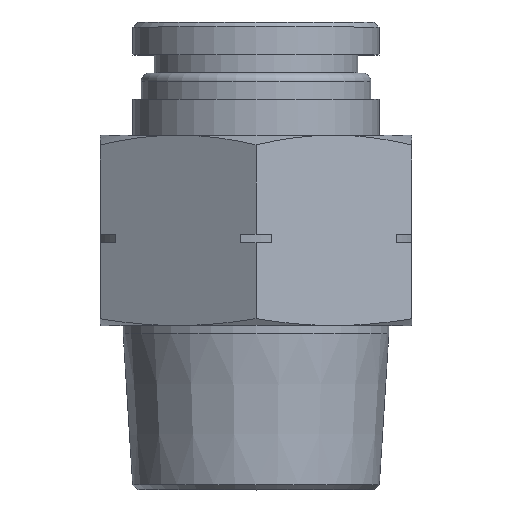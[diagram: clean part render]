
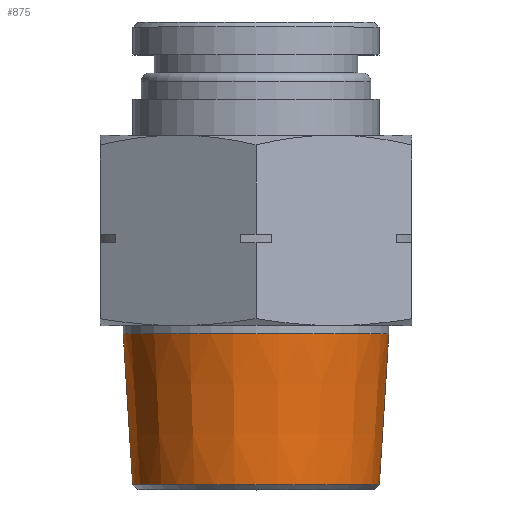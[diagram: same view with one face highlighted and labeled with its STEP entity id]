
A CAD part, top view. The second image highlights one B-rep face of the part: STEP entity #875.
In plain terms, the highlighted conical face has half-angle 3.58 degrees and reference radius 7.797 mm.
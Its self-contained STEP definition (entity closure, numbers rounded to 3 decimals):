
#16=CONICAL_SURFACE('',#978,7.797,0.062);
#104=FACE_OUTER_BOUND('',#162,.T.);
#162=EDGE_LOOP('',(#682,#683,#684,#685,#686));
#216=CIRCLE('',#974,7.519);
#217=CIRCLE('',#975,7.519);
#219=CIRCLE('',#979,8.094);
#286=LINE('',#1473,#344);
#344=VECTOR('',#1184,7.797);
#411=VERTEX_POINT('',#1462);
#412=VERTEX_POINT('',#1463);
#414=VERTEX_POINT('',#1471);
#512=EDGE_CURVE('',#411,#412,#216,.T.);
#513=EDGE_CURVE('',#412,#411,#217,.T.);
#516=EDGE_CURVE('',#414,#414,#219,.T.);
#517=EDGE_CURVE('',#414,#412,#286,.T.);
#682=ORIENTED_EDGE('',*,*,#516,.F.);
#683=ORIENTED_EDGE('',*,*,#517,.T.);
#684=ORIENTED_EDGE('',*,*,#512,.F.);
#685=ORIENTED_EDGE('',*,*,#513,.F.);
#686=ORIENTED_EDGE('',*,*,#517,.F.);
#875=ADVANCED_FACE('',(#104),#16,.T.);
#974=AXIS2_PLACEMENT_3D('',#1464,#1171,#1172);
#975=AXIS2_PLACEMENT_3D('',#1465,#1173,#1174);
#978=AXIS2_PLACEMENT_3D('',#1470,#1180,#1181);
#979=AXIS2_PLACEMENT_3D('',#1472,#1182,#1183);
#1171=DIRECTION('center_axis',(0.,-1.,0.));
#1172=DIRECTION('ref_axis',(-1.,0.,0.));
#1173=DIRECTION('center_axis',(0.,-1.,0.));
#1174=DIRECTION('ref_axis',(-1.,0.,0.));
#1180=DIRECTION('center_axis',(0.,1.,0.));
#1181=DIRECTION('ref_axis',(1.,0.,0.));
#1182=DIRECTION('center_axis',(0.,1.,0.));
#1183=DIRECTION('ref_axis',(1.,0.,0.));
#1184=DIRECTION('',(0.062,-0.998,0.));
#1462=CARTESIAN_POINT('',(7.519,-9.701,0.));
#1463=CARTESIAN_POINT('',(-7.519,-9.701,0.));
#1464=CARTESIAN_POINT('Origin',(0.,-9.701,0.));
#1465=CARTESIAN_POINT('Origin',(0.,-9.701,0.));
#1470=CARTESIAN_POINT('Origin',(0.,-5.25,0.));
#1471=CARTESIAN_POINT('',(-8.094,-0.5,0.));
#1472=CARTESIAN_POINT('Origin',(0.,-0.5,0.));
#1473=CARTESIAN_POINT('',(-7.797,-5.25,0.));
